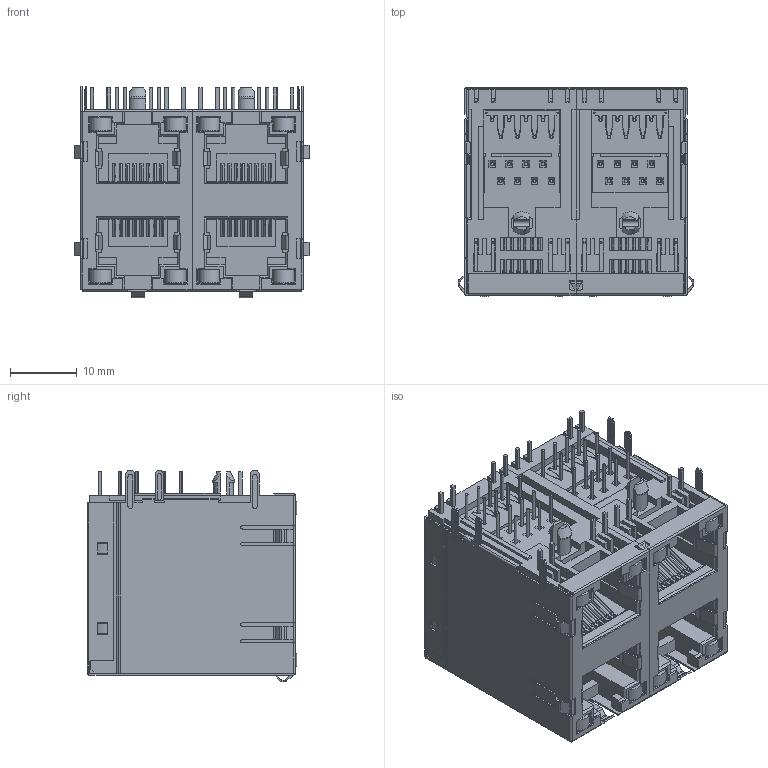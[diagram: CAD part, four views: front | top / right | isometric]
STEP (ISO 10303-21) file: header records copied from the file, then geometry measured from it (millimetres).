
FILE_DESCRIPTION((''),'2;1');
FILE_NAME('5921-22--022_ASM_1_ASM_1_ASM','2020-07-16T19:02:21',('Administrator'),(''),'CREO PARAMETRIC BY PTC INC, 2018400','CREO PARAMETRIC BY PTC INC, 2018400','');
FILE_SCHEMA(('CONFIG_CONTROL_DESIGN'));
Products named in the file (42): LED1_1_1_1; LED2_1_1_1; 5921-022--T-2X400_1_1_1; 5921-022--SU-2X400_1_1_1; CAXING_1_1_1; CAXINGFAN_1_1_1; BEIBU_1_1_1; ZHEN-Y-1_1_1_1; HOUBAN_1_1_1; XIAN-Y_1_1_1; TP_1_1_1; DSA_ASM_1_ASM_1_ASM; 5921-22_1_1_1; 5921-22_1_2_1; 5921-22_1_3_1; 5921-22_1_4_1; 5921-22_1_5_1; 5921-22_1_6_1; 5921-22_1_7_1; 5921-22_1_8_1; 5921-22_1_9_1; 5921-22_1_10_1; 5921-22_1_11_1; 5921-22_1_12_1; 5921-22_1_13_1; 5921-22_1_14_1; 5921-22_1_15_1; 5921-22_1_16_1; 5921-22_1_17_1; 5921-22_1_18_1; 5921-22_1_19_1; 5921-22_1_20_1; 5921-22_1_21_1; 5921-22_1_22_1; 5921-22_1_23_1; 5921-22_1_24_1; 5921-22_1_25_1; 5921-22_1_26_1; 5921-22_1_27_1; 5921-022--T-2X400_1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
Assembly tree (73 placements, depth 3):
  5921-22--022_ASM_1_ASM_1_ASM
    DSA_ASM_1_ASM_1_ASM
      LED1_1_1_1  x2
      LED2_1_1_1  x2
      5921-022--T-2X400_1_1_1
      5921-022--SU-2X400_1_1_1
      CAXING_1_1_1
      CAXINGFAN_1_1_1
      BEIBU_1_1_1
      ZHEN-Y-1_1_1_1  x16
      HOUBAN_1_1_1
      XIAN-Y_1_1_1  x16
      TP_1_1_1
    5921-22_1_ASM_1_ASM
      5921-22_1_1_1
      5921-22_1_2_1
      5921-22_1_3_1
      5921-22_1_4_1
      5921-22_1_5_1
      5921-22_1_6_1
      5921-22_1_7_1
      5921-22_1_8_1
      5921-22_1_9_1
      5921-22_1_10_1
      5921-22_1_11_1
      5921-22_1_12_1
      5921-22_1_13_1
      5921-22_1_14_1
      5921-22_1_15_1
      5921-22_1_16_1
      5921-22_1_17_1
      5921-22_1_18_1
      5921-22_1_19_1
      5921-22_1_20_1
      5921-22_1_21_1
      5921-22_1_22_1
      5921-22_1_23_1
      5921-22_1_24_1
      5921-22_1_25_1
      5921-22_1_26_1
      5921-22_1_27_1
      5921-022--T-2X400_1
Bounding box: 35.39 x 31.43 x 31.75 mm (x, y, z)
Volume: 17424.9 mm3; surface area: 35691.4 mm2
Topology: 71 solids, 71 shells, 3083 faces, 8367 edges, 5404 vertices
Faces by surface type: plane 2153, cylinder 730, torus 128, cone 56, bspline 16
Entity records: 92340 total; most frequent: CARTESIAN_POINT 17832, ORIENTED_EDGE 15654, DIRECTION 15221, EDGE_CURVE 7827, VECTOR 6035, LINE 6035, VERTEX_POINT 5084, AXIS2_PLACEMENT_3D 4593
